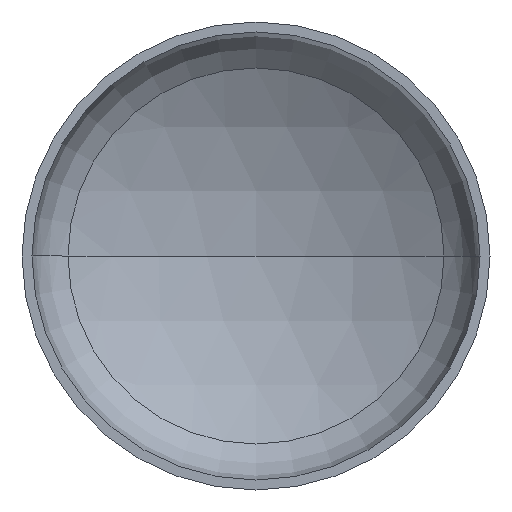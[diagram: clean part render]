
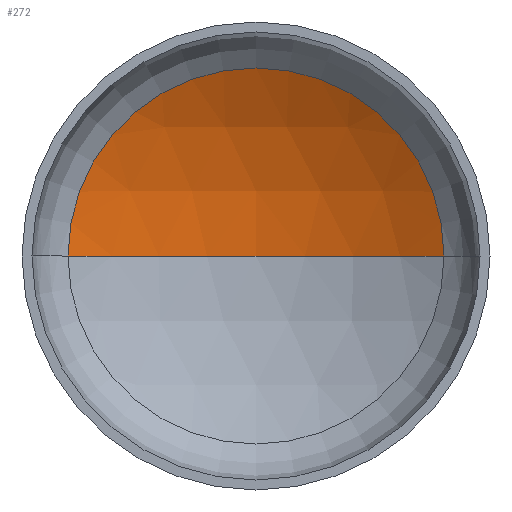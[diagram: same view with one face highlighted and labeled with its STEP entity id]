
A CAD part, front view. The second image highlights one B-rep face of the part: STEP entity #272.
In plain terms, the highlighted spherical face has radius 3600 mm.
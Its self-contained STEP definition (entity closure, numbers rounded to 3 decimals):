
#6 = AXIS2_PLACEMENT_3D ( 'NONE', #203, #362, #225 ) ;
#10 = AXIS2_PLACEMENT_3D ( 'NONE', #405, #262, #98 ) ;
#14 = AXIS2_PLACEMENT_3D ( 'NONE', #199, #140, #61 ) ;
#35 = AXIS2_PLACEMENT_3D ( 'NONE', #166, #187, #194 ) ;
#55 = CIRCLE ( 'NONE', #6, 3600. ) ;
#61 = DIRECTION ( 'NONE',  ( -1., 0., 0. ) ) ;
#85 = EDGE_CURVE ( 'NONE', #184, #118, #395, .T. ) ;
#98 = DIRECTION ( 'NONE',  ( 1., 0., 0. ) ) ;
#115 = ORIENTED_EDGE ( 'NONE', *, *, #85, .T. ) ;
#118 = VERTEX_POINT ( 'NONE', #193 ) ;
#119 = EDGE_LOOP ( 'NONE', ( #134, #131, #115 ) ) ;
#128 = VERTEX_POINT ( 'NONE', #171 ) ;
#131 = ORIENTED_EDGE ( 'NONE', *, *, #338, .T. ) ;
#134 = ORIENTED_EDGE ( 'NONE', *, *, #341, .F. ) ;
#140 = DIRECTION ( 'NONE',  ( 0., 0., -1. ) ) ;
#166 = CARTESIAN_POINT ( 'NONE',  ( 0., 700.987, 0. ) ) ;
#171 = CARTESIAN_POINT ( 'NONE',  ( 0., 1187.96, 0. ) ) ;
#184 = VERTEX_POINT ( 'NONE', #244 ) ;
#187 = DIRECTION ( 'NONE',  ( 0., -1., 0. ) ) ;
#193 = CARTESIAN_POINT ( 'NONE',  ( -1808.055, 700.987, 0. ) ) ;
#194 = DIRECTION ( 'NONE',  ( 1., 0., 0. ) ) ;
#199 = CARTESIAN_POINT ( 'NONE',  ( 0., -2412.04, 0. ) ) ;
#202 = SPHERICAL_SURFACE ( 'NONE', #14, 3600. ) ;
#203 = CARTESIAN_POINT ( 'NONE',  ( 0., -2412.04, 0. ) ) ;
#225 = DIRECTION ( 'NONE',  ( -1., 0., 0. ) ) ;
#244 = CARTESIAN_POINT ( 'NONE',  ( 1808.055, 700.987, 0. ) ) ;
#262 = DIRECTION ( 'NONE',  ( 0., 0., 1. ) ) ;
#272 = ADVANCED_FACE ( 'NONE', ( #309 ), #202, .F. ) ;
#294 = CIRCLE ( 'NONE', #10, 3600. ) ;
#309 = FACE_OUTER_BOUND ( 'NONE', #119, .T. ) ;
#338 = EDGE_CURVE ( 'NONE', #128, #184, #55, .T. ) ;
#341 = EDGE_CURVE ( 'NONE', #128, #118, #294, .T. ) ;
#362 = DIRECTION ( 'NONE',  ( 0., 0., -1. ) ) ;
#395 = CIRCLE ( 'NONE', #35, 1808.055 ) ;
#405 = CARTESIAN_POINT ( 'NONE',  ( 0., -2412.04, 0. ) ) ;
